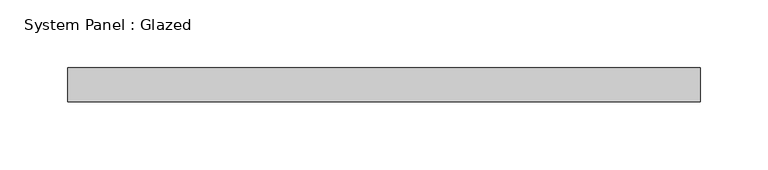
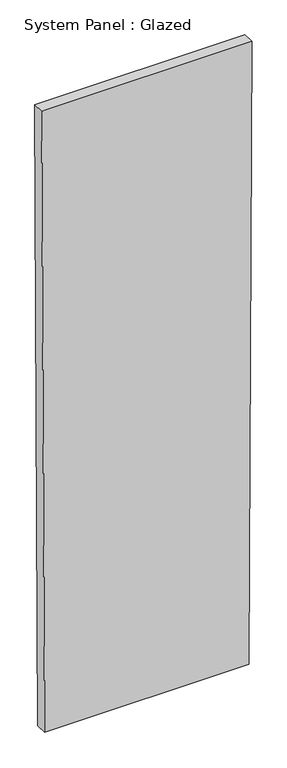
"""IFC4 building model written with IfcOpenShell, lengths in millimetres: plate geometry, System Panel : Glazed."""

from ifc_helpers import new_model, si_unit, frame, origin, place, context, project, spatial, polyline, outline, extrude, source, transform, mapped, element, save


def system_panel_glazed_65ecf698(model_context):
    return source(origin(), model_context, "Body", "SweptSolid", [
        extrude(outline(polyline([(0.0, -227.0676563), (0.0, 227.0676563), (1460.4833681, 233.8909513), (1460.4833681, -233.8909513), (0.0, -227.0676563)])), frame((0.0, -44.45, 0.0), z_axis=(0.0, 1.0, 0.0), x_axis=(0.0, 0.0, 1.0)), (0.0, 0.0, 1.0), 25.4),
    ])


if __name__ == "__main__":
    model = new_model("IFC4")
    model_context = context("Model", 3, world=origin())
    ifc_project = project(units=[si_unit("LENGTHUNIT", "METRE", prefix="MILLI")], contexts=[model_context])
    site = spatial("IfcSite", under=ifc_project)
    building = spatial("IfcBuilding", under=site)
    placement = place(None, origin())
    system_panel_glazed_shape = system_panel_glazed_65ecf698(model_context)
    element("IfcPlate", 1, ObjectType="System Panel : Glazed", at=placement, inside=building, context=model_context, shape_type="MappedRepresentation", body=[
        mapped(system_panel_glazed_shape, transform((0.0, 0.0, 0.0), x_axis=(1.0, 0.0, 0.0), y_axis=(0.0, 1.0, 0.0), z_axis=(0.0, 0.0, 1.0))),
    ])
    save(model, "model.ifc")
